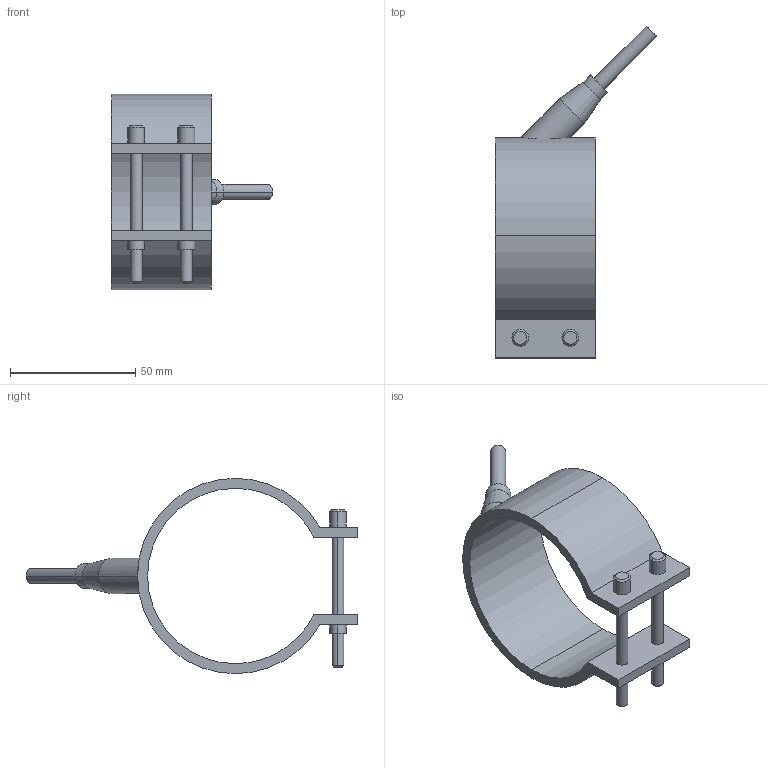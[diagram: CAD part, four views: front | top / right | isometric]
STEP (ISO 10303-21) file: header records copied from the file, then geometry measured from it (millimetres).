
FILE_DESCRIPTION(('CATIA V5 STEP Exchange'),'2;1');
FILE_NAME('C:\Users\Utente\Desktop\IO LAVORO\3D X SITO CF\X SITO\PLASTICA\RF1\29070040.stp','2021-03-27T09:42:51+00:00',('none'),('none'),'CATIA Version 5 Release 20 GA (IN-10)','CATIA V5 STEP AP203','none');
FILE_SCHEMA(('CONFIG_CONTROL_DESIGN'));
Length unit declared in the file: millimetre
Products named in the file (1): 29070040
Bounding box: 64.55 x 132.55 x 78 mm (x, y, z)
Volume: 43643.4 mm3; surface area: 23761 mm2
Topology: 1 solids, 1 shells, 54 faces, 126 edges, 82 vertices
Faces by surface type: cylinder 28, plane 16, cone 10
Entity records: 1761 total; most frequent: CARTESIAN_POINT 514, ORIENTED_EDGE 252, DIRECTION 213, EDGE_CURVE 126, AXIS2_PLACEMENT_3D 106, VERTEX_POINT 82, EDGE_LOOP 66, VECTOR 56
